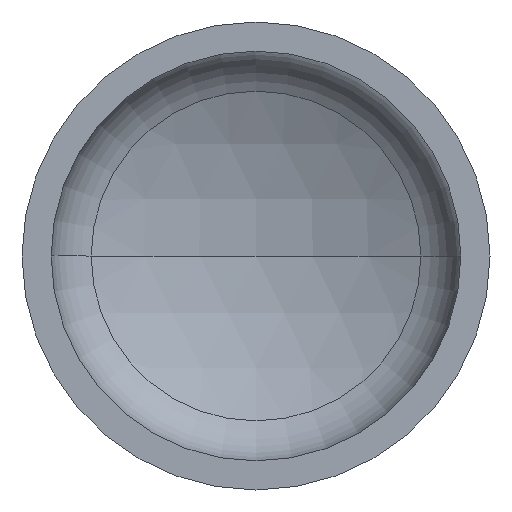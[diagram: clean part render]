
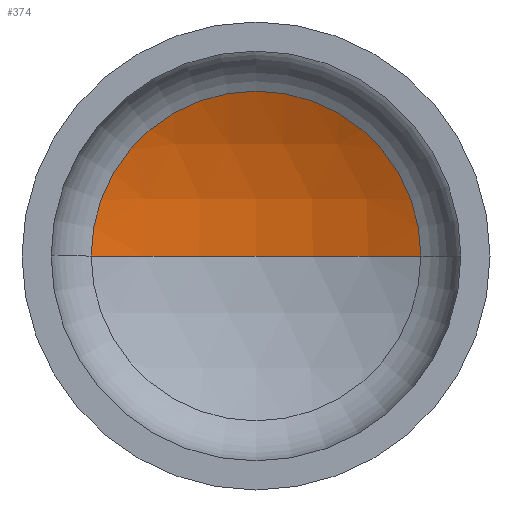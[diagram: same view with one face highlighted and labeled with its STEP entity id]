
A CAD part, front view. The second image highlights one B-rep face of the part: STEP entity #374.
In plain terms, the highlighted spherical face has radius 1440 mm.
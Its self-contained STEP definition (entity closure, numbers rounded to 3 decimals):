
#5 = AXIS2_PLACEMENT_3D ( 'NONE', #78, #227, #98 ) ;
#9 = AXIS2_PLACEMENT_3D ( 'NONE', #87, #95, #65 ) ;
#12 = DIRECTION ( 'NONE',  ( 0., -1., 0. ) ) ;
#13 = AXIS2_PLACEMENT_3D ( 'NONE', #183, #12, #109 ) ;
#18 = AXIS2_PLACEMENT_3D ( 'NONE', #103, #111, #104 ) ;
#65 = DIRECTION ( 'NONE',  ( -1., 0., 0. ) ) ;
#71 = CIRCLE ( 'NONE', #18, 1440. ) ;
#78 = CARTESIAN_POINT ( 'NONE',  ( 0., -970.971, 0. ) ) ;
#81 = VERTEX_POINT ( 'NONE', #187 ) ;
#87 = CARTESIAN_POINT ( 'NONE',  ( 0., -970.971, 0. ) ) ;
#94 = ORIENTED_EDGE ( 'NONE', *, *, #352, .T. ) ;
#95 = DIRECTION ( 'NONE',  ( 0., 0., -1. ) ) ;
#98 = DIRECTION ( 'NONE',  ( -1., 0., 0. ) ) ;
#103 = CARTESIAN_POINT ( 'NONE',  ( 0., -970.971, 0. ) ) ;
#104 = DIRECTION ( 'NONE',  ( 1., 0., 0. ) ) ;
#109 = DIRECTION ( 'NONE',  ( 1., 0., 0. ) ) ;
#111 = DIRECTION ( 'NONE',  ( 0., 0., 1. ) ) ;
#131 = CARTESIAN_POINT ( 'NONE',  ( 634.094, 321.903, 0. ) ) ;
#140 = CIRCLE ( 'NONE', #13, 634.094 ) ;
#166 = ORIENTED_EDGE ( 'NONE', *, *, #331, .F. ) ;
#183 = CARTESIAN_POINT ( 'NONE',  ( 0., 321.903, 0. ) ) ;
#187 = CARTESIAN_POINT ( 'NONE',  ( 0., 469.029, 0. ) ) ;
#212 = FACE_OUTER_BOUND ( 'NONE', #301, .T. ) ;
#218 = SPHERICAL_SURFACE ( 'NONE', #5, 1440. ) ;
#226 = CIRCLE ( 'NONE', #9, 1440. ) ;
#227 = DIRECTION ( 'NONE',  ( 0., 0., -1. ) ) ;
#301 = EDGE_LOOP ( 'NONE', ( #166, #368, #94 ) ) ;
#316 = VERTEX_POINT ( 'NONE', #131 ) ;
#331 = EDGE_CURVE ( 'NONE', #81, #349, #71, .T. ) ;
#349 = VERTEX_POINT ( 'NONE', #388 ) ;
#352 = EDGE_CURVE ( 'NONE', #316, #349, #140, .T. ) ;
#357 = EDGE_CURVE ( 'NONE', #81, #316, #226, .T. ) ;
#368 = ORIENTED_EDGE ( 'NONE', *, *, #357, .T. ) ;
#374 = ADVANCED_FACE ( 'NONE', ( #212 ), #218, .F. ) ;
#388 = CARTESIAN_POINT ( 'NONE',  ( -634.094, 321.903, 0. ) ) ;
